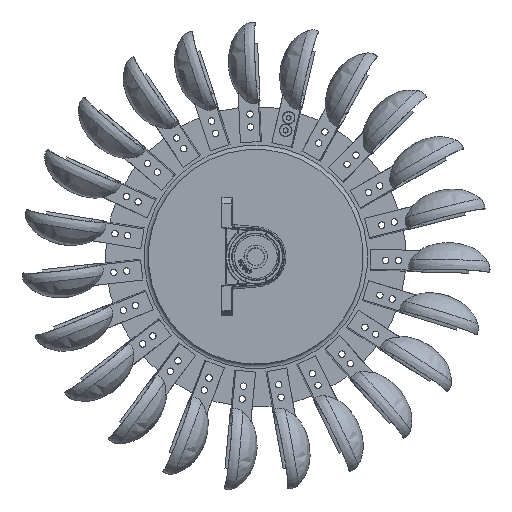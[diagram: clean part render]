
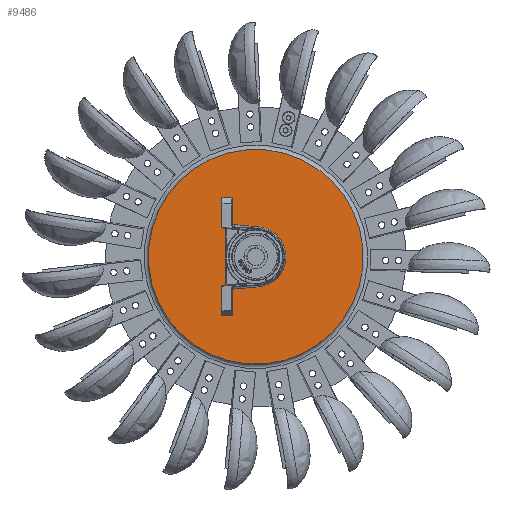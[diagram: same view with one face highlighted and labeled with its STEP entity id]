
A CAD part, left-side view. The second image highlights one B-rep face of the part: STEP entity #9486.
In plain terms, the highlighted planar face has unit normal (-1, 0, 0) as drawn and (0, 0, -1) by its records, which use the part's own axes.
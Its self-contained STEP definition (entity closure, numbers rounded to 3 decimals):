
#1091=FACE_BOUND('',#2136,.T.);
#1189=PLANE('',#10324);
#1502=FACE_OUTER_BOUND('',#2135,.T.);
#2135=EDGE_LOOP('',(#6709));
#2136=EDGE_LOOP('',(#6710));
#3921=CIRCLE('',#10322,11.);
#3923=CIRCLE('',#10325,50.);
#4373=VERTEX_POINT('',#13652);
#4374=VERTEX_POINT('',#13656);
#5264=EDGE_CURVE('',#4373,#4373,#3921,.T.);
#5266=EDGE_CURVE('',#4374,#4374,#3923,.T.);
#6709=ORIENTED_EDGE('',*,*,#5266,.T.);
#6710=ORIENTED_EDGE('',*,*,#5264,.F.);
#9486=ADVANCED_FACE('',(#1502,#1091),#1189,.T.);
#10322=AXIS2_PLACEMENT_3D('',#13653,#11318,#11319);
#10324=AXIS2_PLACEMENT_3D('',#13655,#11322,#11323);
#10325=AXIS2_PLACEMENT_3D('',#13657,#11324,#11325);
#11318=DIRECTION('center_axis',(0.,0.,-1.));
#11319=DIRECTION('ref_axis',(-1.,0.,0.));
#11322=DIRECTION('center_axis',(0.,0.,-1.));
#11323=DIRECTION('ref_axis',(-1.,0.,0.));
#11324=DIRECTION('center_axis',(0.,0.,-1.));
#11325=DIRECTION('ref_axis',(-1.,0.,0.));
#13652=CARTESIAN_POINT('',(6.109,-57.453,-7.5));
#13653=CARTESIAN_POINT('Origin',(-4.891,-57.453,-7.5));
#13655=CARTESIAN_POINT('Origin',(-4.891,-57.453,-7.5));
#13656=CARTESIAN_POINT('',(45.109,-57.453,-7.5));
#13657=CARTESIAN_POINT('Origin',(-4.891,-57.453,-7.5));
